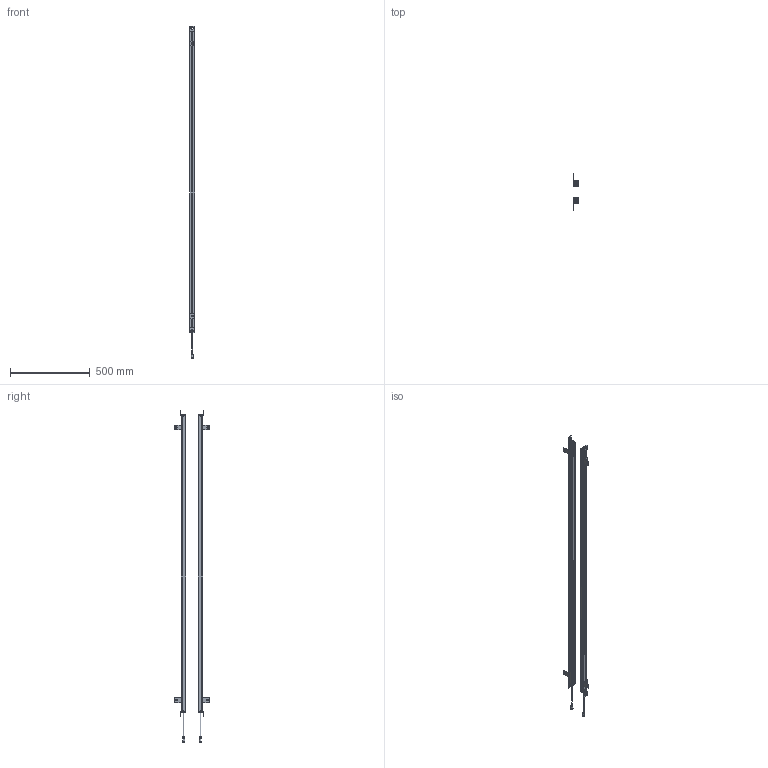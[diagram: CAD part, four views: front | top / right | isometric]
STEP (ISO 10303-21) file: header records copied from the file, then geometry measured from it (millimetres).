
FILE_DESCRIPTION(/* description */ (''),/* implementation_level */ '2;1');
FILE_NAME(/* name */ '4640（29x30).stp',/* time_stamp */ '2023-05-04T09:16:09+08:00',/* author */ (''),/* organization */ (''),/* preprocessor_version */ 'ST-DEVELOPER v16.7',/* originating_system */ 'SIEMENS PLM Software NX 12.0',/* authorisation */ '');
FILE_SCHEMA (('AUTOMOTIVE_DESIGN { 1 0 10303 214 3 1 1 1 }'));
Products named in the file (1): 2640（29x30__stp111_stp
Bounding box: 32.03 x 223.99 x 2081 mm (x, y, z)
Volume: 1136645.6 mm3; surface area: 1168187.5 mm2
Topology: 34 solids, 34 shells, 1610 faces, 4267 edges, 2771 vertices
Faces by surface type: plane 750, cylinder 648, bspline 88, sphere 36, cone 36, torus 32, extrusion 20
Full cylindrical faces by diameter (mm): 1.533 x6, 4.4 x4, 9 x2, 12.5 x2
Entity records: 56427 total; most frequent: CARTESIAN_POINT 16064, DIRECTION 8330, ORIENTED_EDGE 8324, EDGE_CURVE 4162, AXIS2_PLACEMENT_3D 2918, VERTEX_POINT 2696, VECTOR 2494, LINE 2474
